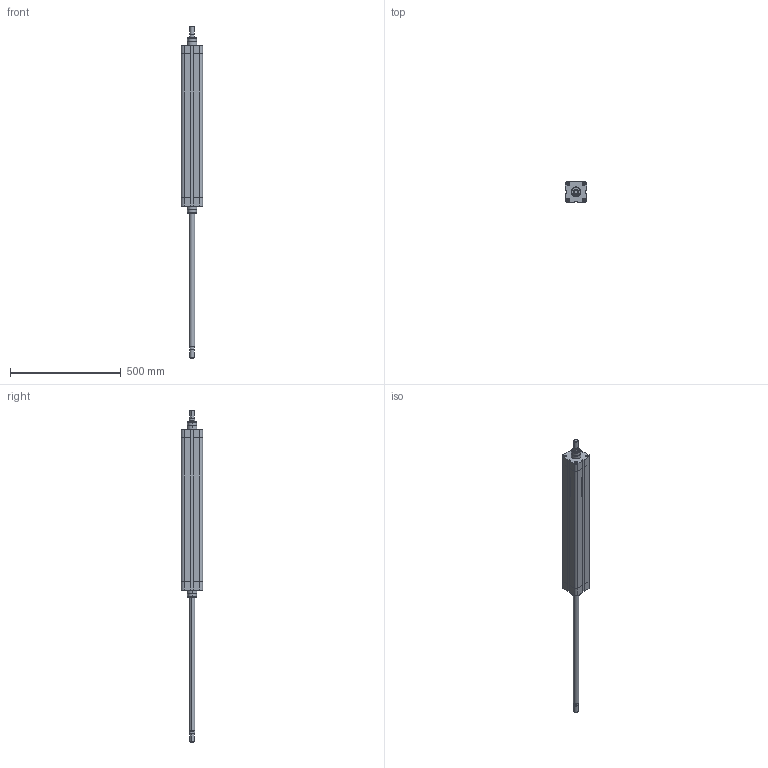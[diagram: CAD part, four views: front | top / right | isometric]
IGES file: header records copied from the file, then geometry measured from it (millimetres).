
Global section: file name: No Iges File Name specified; native system: AutoDesk Inventor R6.1; preprocessor: AutoDesk Inventor Iges Exporter R6.1; author: No Author specified; organization: No Organization specified; date: 20040107.171507; units: millimetre
Bounding box: 95.5 x 95.5 x 1500 mm (x, y, z)
Volume: 6788140.9 mm3; surface area: 515493.9 mm2
Topology: 2 solids, 2 shells, 236 faces, 564 edges, 356 vertices
Faces by surface type: plane 80, bspline 62, cylinder 42, revolution 32, cone 16, torus 4
